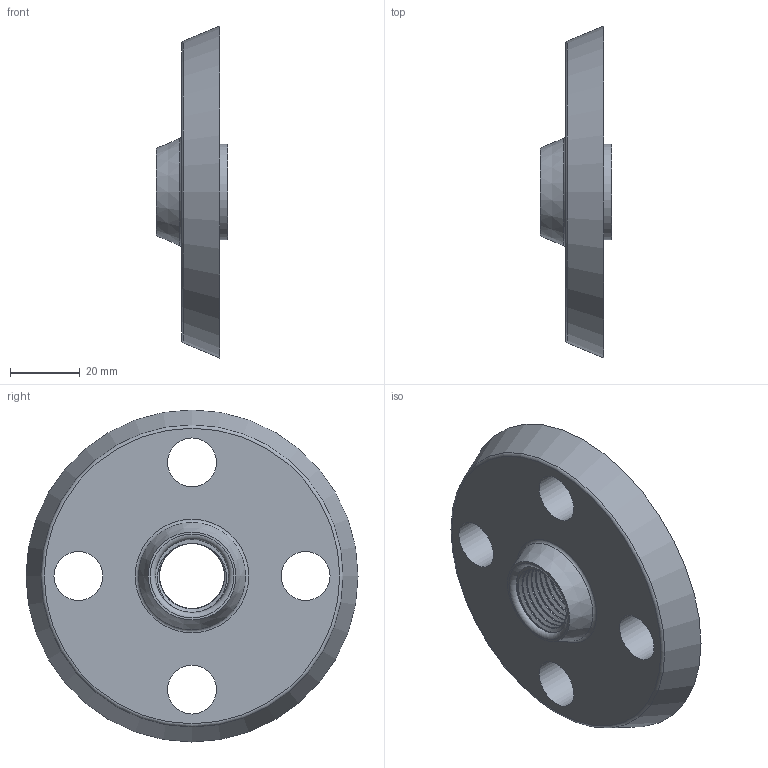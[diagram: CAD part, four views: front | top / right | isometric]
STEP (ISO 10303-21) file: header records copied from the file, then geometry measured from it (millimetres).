
FILE_DESCRIPTION(/* description */ (''),/* implementation_level */ '2;1');
FILE_NAME(/* name */ 'C:\Users\Gabriele\Desktop\disegni 3D\FF01\FF010200.ipt.stp',/* time_stamp */ '2017-01-25T17:53:23+01:00',/* author */ ('Gabriele'),/* organization */ (''),/* preprocessor_version */ 'ST-DEVELOPER v16.5',/* originating_system */ 'Autodesk Inventor 2017',/* authorisation */ '');
FILE_SCHEMA (('AUTOMOTIVE_DESIGN { 1 0 10303 214 3 1 1 }'));
Length unit declared in the file: millimetre
Products named in the file (1): FF010200
Bounding box: 20.5 x 95 x 95 mm (x, y, z)
Volume: 50161.4 mm3; surface area: 26382.1 mm2
Topology: 2 solids, 2 shells, 443 faces, 919 edges, 505 vertices
Faces by surface type: torus 167, cylinder 159, sphere 64, plane 45, bspline 6, cone 2
Full cylindrical faces by diameter (mm): 14 x4, 18.96 x1, 20.171 x1, 20.96 x2, 21.383 x1, 22.594 x1, 23.806 x1, 25.017 x1, 26.229 x1, 27.44 x1
Entity records: 15353 total; most frequent: CARTESIAN_POINT 5620, DIRECTION 2430, ORIENTED_EDGE 1784, AXIS2_PLACEMENT_3D 1119, EDGE_CURVE 892, CIRCLE 681, EDGE_LOOP 503, VERTEX_POINT 501
